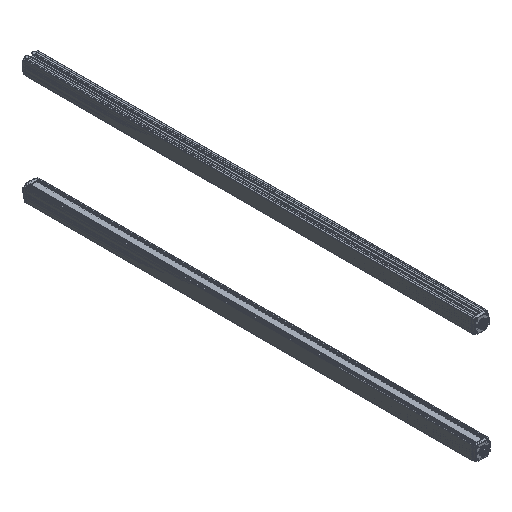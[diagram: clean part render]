
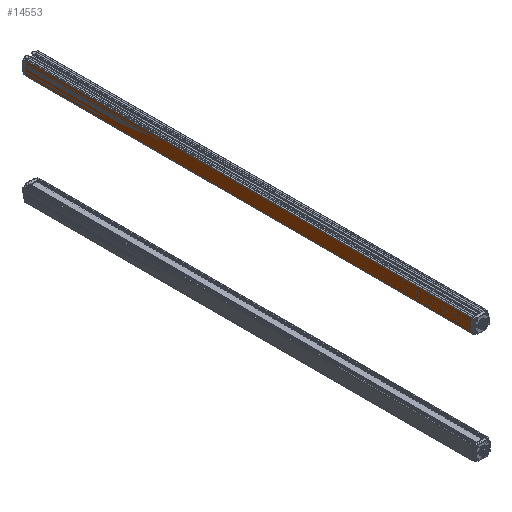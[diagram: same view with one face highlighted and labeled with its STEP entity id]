
A CAD part, isometric view. The second image highlights one B-rep face of the part: STEP entity #14553.
In plain terms, the highlighted planar face has unit normal (-1, 0, -0.009) as drawn and (-1, 0, 0) by its records, which use the part's own axes.
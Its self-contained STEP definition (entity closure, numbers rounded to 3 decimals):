
#136 = CARTESIAN_POINT ( 'NONE',  ( -15., 930., -16.9 ) ) ;
#137 = PLANE ( 'NONE',  #11831 ) ;
#503 = EDGE_CURVE ( 'NONE', #13796, #4859, #17671, .T. ) ;
#736 = VECTOR ( 'NONE', #5692, 1000. ) ;
#2339 = VECTOR ( 'NONE', #8015, 1000. ) ;
#3049 = VERTEX_POINT ( 'NONE', #12451 ) ;
#3533 = CARTESIAN_POINT ( 'NONE',  ( -15., 930., 10.9 ) ) ;
#4500 = LINE ( 'NONE', #5867, #7858 ) ;
#4859 = VERTEX_POINT ( 'NONE', #14429 ) ;
#5328 = DIRECTION ( 'NONE',  ( 1., 0., 0. ) ) ;
#5609 = EDGE_CURVE ( 'NONE', #3049, #4859, #8896, .T. ) ;
#5692 = DIRECTION ( 'NONE',  ( 0., 0., 1. ) ) ;
#5867 = CARTESIAN_POINT ( 'NONE',  ( -15., 930., -16.693 ) ) ;
#7397 = EDGE_CURVE ( 'NONE', #17350, #3049, #12592, .T. ) ;
#7858 = VECTOR ( 'NONE', #11401, 1000. ) ;
#8015 = DIRECTION ( 'NONE',  ( 0., 0., 1. ) ) ;
#8896 = LINE ( 'NONE', #3533, #16664 ) ;
#9415 = FACE_OUTER_BOUND ( 'NONE', #16617, .T. ) ;
#9867 = CARTESIAN_POINT ( 'NONE',  ( -15., 930., -16.9 ) ) ;
#10175 = ORIENTED_EDGE ( 'NONE', *, *, #5609, .F. ) ;
#11006 = CARTESIAN_POINT ( 'NONE',  ( -15., 0., -16.693 ) ) ;
#11401 = DIRECTION ( 'NONE',  ( 0., -1., 0. ) ) ;
#11831 = AXIS2_PLACEMENT_3D ( 'NONE', #9867, #5328, #12233 ) ;
#12233 = DIRECTION ( 'NONE',  ( 0., 0., -1. ) ) ;
#12376 = CARTESIAN_POINT ( 'NONE',  ( -15., 0., -16.9 ) ) ;
#12451 = CARTESIAN_POINT ( 'NONE',  ( -15., 930., 10.9 ) ) ;
#12592 = LINE ( 'NONE', #136, #736 ) ;
#12690 = ORIENTED_EDGE ( 'NONE', *, *, #503, .T. ) ;
#13498 = CARTESIAN_POINT ( 'NONE',  ( -15., 930., -16.693 ) ) ;
#13796 = VERTEX_POINT ( 'NONE', #11006 ) ;
#14351 = ORIENTED_EDGE ( 'NONE', *, *, #7397, .F. ) ;
#14365 = DIRECTION ( 'NONE',  ( 0., -1., 0. ) ) ;
#14429 = CARTESIAN_POINT ( 'NONE',  ( -15., 0., 10.9 ) ) ;
#14553 = ADVANCED_FACE ( 'NONE', ( #9415 ), #137, .F. ) ;
#16617 = EDGE_LOOP ( 'NONE', ( #14351, #17375, #12690, #10175 ) ) ;
#16664 = VECTOR ( 'NONE', #14365, 1000. ) ;
#17350 = VERTEX_POINT ( 'NONE', #13498 ) ;
#17375 = ORIENTED_EDGE ( 'NONE', *, *, #17622, .T. ) ;
#17622 = EDGE_CURVE ( 'NONE', #17350, #13796, #4500, .T. ) ;
#17671 = LINE ( 'NONE', #12376, #2339 ) ;
